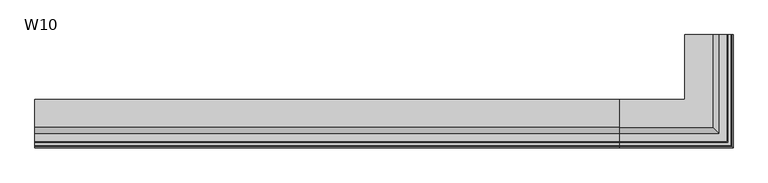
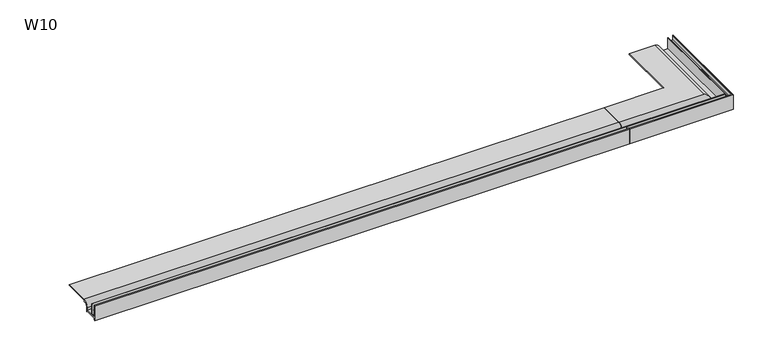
"""IFC4 building model written with IfcOpenShell, lengths in millimetres: proxy geometry, W10 Profil okapowy prosty : W10."""

from ifc_helpers import new_model, si_unit, point, frame, frame_2d, origin, place, context, project, spatial, polyline, circle_curve, ellipse_curve, trimmed, segment, composite_curve, outline, extrude, source, transform, mapped, element, save
from ifc_brep_helpers import plane_surface, cylinder_surface, revolved_surface, advanced_brep


def w10_300571e7(model_context):
    return source(origin(), model_context, "Body", "SolidModel", [
        advanced_brep(
        [(1315.0, -44.56, -27.6922578), (1315.0, -44.56, 9.4246509), (1315.0, -43.1073683, 11.223413), (1315.0, -42.8536246, 10.034885), (1315.0, -43.3599998, 9.4089901), (1315.0, -43.3599998, -1.26), (1315.0, -40.9599998, -1.26), (1315.0, -40.9599998, -2.62), (1315.0, -43.3599998, -2.62), (1315.0, -43.3599998, -15.6), (1315.0, -40.7999998, -15.6), (1315.0, -40.7999998, -16.8), (1315.0, -43.3599998, -16.8), (1315.0, -43.3599998, -20.0), (1315.0, -32.3999998, -20.0), (1315.0, -32.3999998, 8.6705848), (1315.0, -31.1999998, 8.6705848), (1315.0, -31.1999998, -20.0), (1315.0, -12.3999998, -20.0), (1315.0, -12.3999998, -13.6), (1315.0, 1.2000002, 0.0), (1315.0, 63.8400002, 0.0), (1315.0, 63.8400002, -1.92), (1315.0, -0.1599998, -1.92), (1315.0, -0.1599998, -5.76), (1315.0, -1.1999998, -5.76), (1315.0, -1.1999998, -2.1733833), (1315.0, -10.4799998, -13.6), (1315.0, -10.4799998, -24.3057388), (1315.0, -11.6799998, -25.0468739), (1315.0, -11.6799998, -21.92), (1315.0, -43.3599999, -21.92), (1315.0, -43.3599999, -26.4922579), (1569.56, 210.0, -27.6922578), (1568.3599999, 210.0, -26.4922579), (1568.3599999, 210.0, -21.92), (1536.6799998, 210.0, -21.92), (1536.6799998, 210.0, -25.0468739), (1535.4799998, 210.0, -24.3057388), (1535.4799998, 210.0, -13.6), (1526.1999998, 210.0, -2.1733833), (1526.1999998, 210.0, -5.76), (1525.1599998, 210.0, -5.76), (1525.1599998, 210.0, -1.92), (1461.1599998, 210.0, -1.92), (1461.1599998, 210.0, 0.0), (1523.7999998, 210.0, 0.0), (1537.3999998, 210.0, -13.6), (1537.3999998, 210.0, -20.0), (1556.1999998, 210.0, -20.0), (1556.1999998, 210.0, 8.6705848), (1557.3999998, 210.0, 8.6705848), (1557.3999998, 210.0, -20.0), (1568.3599998, 210.0, -20.0), (1568.3599998, 210.0, -16.8), (1565.7999998, 210.0, -16.8), (1565.7999998, 210.0, -15.6), (1568.3599998, 210.0, -15.6), (1568.3599998, 210.0, -2.62), (1565.9599998, 210.0, -2.62), (1565.9599998, 210.0, -1.26), (1568.3599998, 210.0, -1.26), (1568.3599998, 210.0, 9.4089901), (1567.8536246, 210.0, 10.034885), (1568.1073683, 210.0, 11.223413), (1569.56, 210.0, 9.4246509), (1568.3599999, -43.3599999, -26.4922579), (1569.56, -44.56, -27.6922578), (1461.1599998, 63.8400002, 0.0), (1461.1599998, 63.8400002, -1.92), (1525.1599998, -0.1599998, -1.92), (1526.1999998, -1.1999998, -2.1733833), (1535.4799998, -10.4799998, -13.6), (1535.4799998, -10.4799998, -24.3057388), (1536.6799998, -11.6799998, -25.0468739), (1536.6799998, -11.6799998, -21.92), (1568.3599999, -43.3599999, -21.92), (1569.56, -44.56, 9.4246509), (1526.1999998, -1.1999998, -5.76), (1525.1599998, -0.1599998, -5.76), (1523.7999998, 1.2000002, 0.0), (1537.3999998, -12.3999998, -13.6), (1537.3999998, -12.3999998, -20.0), (1556.1999998, -31.1999998, -20.0), (1556.1999998, -31.1999998, 8.6705848), (1557.3999998, -32.3999998, 8.6705848), (1557.3999998, -32.3999998, -20.0), (1568.3599998, -43.3599998, -20.0), (1568.3599998, -43.3599998, -16.8), (1565.7999998, -40.7999998, -16.8), (1565.7999998, -40.7999998, -15.6), (1568.3599998, -43.3599998, -15.6), (1568.3599998, -43.3599998, -2.62), (1565.9599998, -40.9599998, -2.62), (1565.9599998, -40.9599998, -1.26), (1568.3599998, -43.3599998, -1.26), (1568.3599998, -43.3599998, 9.4089901), (1567.8536246, -42.8536246, 10.034885), (1568.1073683, -43.1073683, 11.223413)],
        [
            (0, 1),
            (1, 2, circle_curve(frame((1315.0, -42.7200002, 9.4246509), z_axis=(-1.0, 0.0, 0.0), x_axis=(0.0, 1.0, 0.0)), 1.8399998)),
            (2, 3),
            (3, 4, circle_curve(frame((1315.0, -42.7199998, 9.4089901), z_axis=(1.0, 0.0, 0.0), x_axis=(0.0, 1.0, 0.0)), 0.64)),
            (4, 5),
            (5, 6),
            (6, 7),
            (7, 8),
            (8, 9),
            (9, 10),
            (10, 11),
            (11, 12),
            (12, 13),
            (13, 14),
            (14, 15),
            (15, 16),
            (16, 17),
            (17, 18),
            (18, 19),
            (19, 20, circle_curve(frame((1315.0, 1.2000002, -13.6), z_axis=(-1.0, 0.0, 0.0), x_axis=(0.0, 1.0, 0.0)), 13.6)),
            (20, 21),
            (21, 22),
            (22, 23),
            (23, 24),
            (24, 25),
            (25, 26),
            (26, 27, circle_curve(frame((1315.0, 1.1910212, -13.5968574), z_axis=(1.0, 0.0, 0.0), x_axis=(0.0, 1.0, 0.0)), 11.6710215)),
            (27, 28),
            (28, 29),
            (29, 30),
            (30, 31),
            (31, 32),
            (32, 0),
            (33, 34),
            (34, 35),
            (35, 36),
            (36, 37),
            (37, 38),
            (38, 39),
            (39, 40, circle_curve(frame((1523.8089788, 210.0, -13.5968574), z_axis=(0.0, -1.0, 0.0), x_axis=(-1.0, 0.0, 0.0)), 11.6710215)),
            (40, 41),
            (41, 42),
            (42, 43),
            (43, 44),
            (44, 45),
            (45, 46),
            (46, 47, circle_curve(frame((1523.7999998, 210.0, -13.6), z_axis=(0.0, 1.0, 0.0), x_axis=(-1.0, 0.0, 0.0)), 13.6)),
            (47, 48),
            (48, 49),
            (49, 50),
            (50, 51),
            (51, 52),
            (52, 53),
            (53, 54),
            (54, 55),
            (55, 56),
            (56, 57),
            (57, 58),
            (58, 59),
            (59, 60),
            (60, 61),
            (61, 62),
            (62, 63, circle_curve(frame((1567.7199998, 210.0, 9.4089901), z_axis=(0.0, -1.0, 0.0), x_axis=(-1.0, 0.0, 0.0)), 0.64)),
            (63, 64),
            (64, 65, circle_curve(frame((1567.7200002, 210.0, 9.4246509), z_axis=(0.0, 1.0, 0.0), x_axis=(-1.0, 0.0, 0.0)), 1.8399998)),
            (65, 33),
            (32, 66),
            (66, 67),
            (67, 0),
            (21, 68),
            (68, 69),
            (69, 22),
            (69, 44),
            (43, 70),
            (70, 23),
            (26, 71),
            (71, 72, ellipse_curve(frame((1523.8089788, 1.1910212, -13.5968574), z_axis=(0.7071067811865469, 0.707106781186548, 0.0), x_axis=(0.7071067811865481, -0.7071067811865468, 0.0)), 16.5053168, 11.6710215)),
            (72, 27),
            (72, 73),
            (73, 28),
            (73, 74),
            (74, 29),
            (74, 75),
            (75, 30),
            (75, 36),
            (35, 76),
            (76, 31),
            (76, 66),
            (67, 77),
            (77, 1),
            (66, 34),
            (33, 67),
            (68, 45),
            (71, 40),
            (39, 72),
            (38, 73),
            (37, 74),
            (65, 77),
            (25, 78),
            (78, 71),
            (24, 79),
            (79, 42),
            (41, 78),
            (70, 79),
            (20, 80),
            (80, 46),
            (19, 81),
            (81, 80, ellipse_curve(frame((1523.7999998, 1.2000002, -13.6), z_axis=(-0.7071067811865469, -0.707106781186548, 0.0), x_axis=(-0.7071067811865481, 0.7071067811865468, 0.0)), 19.2333044, 13.6)),
            (18, 82),
            (82, 81),
            (17, 83),
            (83, 49),
            (48, 82),
            (16, 84),
            (84, 83),
            (15, 85),
            (85, 51),
            (50, 84),
            (14, 86),
            (86, 85),
            (13, 87),
            (87, 53),
            (52, 86),
            (12, 88),
            (88, 87),
            (11, 89),
            (89, 55),
            (54, 88),
            (10, 90),
            (90, 89),
            (9, 91),
            (91, 57),
            (56, 90),
            (8, 92),
            (92, 91),
            (7, 93),
            (93, 59),
            (58, 92),
            (6, 94),
            (94, 93),
            (5, 95),
            (95, 61),
            (60, 94),
            (4, 96),
            (96, 95),
            (3, 97),
            (97, 96, ellipse_curve(frame((1567.7199998, -42.7199998, 9.4089901), z_axis=(0.7071067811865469, 0.707106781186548, 0.0), x_axis=(0.7071067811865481, -0.7071067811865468, 0.0)), 0.9050966, 0.64)),
            (2, 98),
            (98, 97),
            (77, 98, ellipse_curve(frame((1567.7200002, -42.7200002, 9.4246509), z_axis=(-0.7071067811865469, -0.707106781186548, 0.0), x_axis=(-0.7071067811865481, 0.7071067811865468, 0.0)), 2.6021527, 1.8399998)),
            (81, 47),
            (96, 62),
            (97, 63),
            (98, 64),
        ],
        [
            plane_surface(frame((1315.0, 0.0, 1.5241588), z_axis=(-1.0, 0.0, 0.0), x_axis=(0.0, 0.0, 1.0))),
            plane_surface(frame((1525.0, 210.0, 1.5241588), z_axis=(0.0, 1.0, 0.0), x_axis=(0.0, 0.0, 1.0))),
            plane_surface(frame((1315.0, -44.56, -27.6922578), z_axis=(0.0, 0.7071067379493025, -0.70710682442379), x_axis=(1.0, 0.0, 0.0))),
            plane_surface(frame((1315.0, 63.8400002, -1.92), z_axis=(0.0, 1.0, 0.0), x_axis=(1.0, 0.0, 0.0))),
            plane_surface(frame((1315.0, -0.1599998, -1.92), z_axis=(0.0, 0.0, -1.0), x_axis=(1.0, 0.0, 0.0))),
            revolved_surface(polyline([(1535.4800002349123, 12.8620427, -13.5968574), (1315.0, 12.8620427, -13.5968574)]), (1315.0, 1.1910212, -13.5968574), (1.0, 0.0, 0.0)),
            plane_surface(frame((1315.0, -10.4799998, -24.3057388), z_axis=(0.0, 1.0, 0.0), x_axis=(1.0, 0.0, 0.0))),
            plane_surface(frame((1315.0, -11.6799998, -25.0468739), z_axis=(0.0, 0.5254716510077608, -0.8508111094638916), x_axis=(1.0, 0.0, 0.0))),
            plane_surface(frame((1315.0, -11.6799998, -21.92), z_axis=(0.0, -1.0, 0.0), x_axis=(1.0, 0.0, 0.0))),
            plane_surface(frame((1315.0, -43.3599999, -21.92), z_axis=(0.0, 0.0, -1.0), x_axis=(1.0, 0.0, 0.0))),
            plane_surface(frame((1315.0, -43.3599999, -26.4922579), z_axis=(0.0, 1.0, 0.0), x_axis=(1.0, 0.0, 0.0))),
            plane_surface(frame((1315.0, -44.56, 9.4246509), z_axis=(0.0, -1.0, 0.0), x_axis=(1.0, 0.0, 0.0))),
            plane_surface(frame((1569.56, -44.56, -27.6922578), z_axis=(-0.7071067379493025, 0.0, -0.70710682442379), x_axis=(0.0, 1.0, 0.0))),
            plane_surface(frame((1461.1599998, 63.8400002, -1.92), z_axis=(-1.0, 0.0, 0.0), x_axis=(0.0, 1.0, 0.0))),
            revolved_surface(polyline([(1512.1379573, 210.0, -13.5968574), (1512.1379573, -10.480000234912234, -13.5968574)]), (1523.8089788, 0.0, -13.5968574), (0.0, 1.0, 0.0)),
            plane_surface(frame((1535.4799998, -10.4799998, -24.3057388), z_axis=(-1.0, 0.0, 0.0), x_axis=(0.0, 1.0, 0.0))),
            plane_surface(frame((1536.6799998, -11.6799998, -25.0468739), z_axis=(-0.5254716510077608, 0.0, -0.8508111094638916), x_axis=(0.0, 1.0, 0.0))),
            plane_surface(frame((1536.6799998, -11.6799998, -21.92), z_axis=(1.0, 0.0, 0.0), x_axis=(0.0, 1.0, 0.0))),
            plane_surface(frame((1568.3599999, -43.3599999, -26.4922579), z_axis=(-1.0, 0.0, 0.0), x_axis=(0.0, 1.0, 0.0))),
            plane_surface(frame((1569.56, -44.56, 9.4246509), z_axis=(1.0, 0.0, 0.0), x_axis=(0.0, 1.0, 0.0))),
            plane_surface(frame((1315.0, -1.1999998, -2.1733833), z_axis=(0.0, -1.0, 0.0), x_axis=(1.0, 0.0, 0.0))),
            plane_surface(frame((1315.0, -1.1999998, -5.76), z_axis=(0.0, 0.0, -1.0), x_axis=(1.0, 0.0, 0.0))),
            plane_surface(frame((1315.0, -0.1599998, -5.76), z_axis=(0.0, 1.0, 0.0), x_axis=(1.0, 0.0, 0.0))),
            plane_surface(frame((1315.0, 63.8400002, 0.0), z_axis=(0.0, 0.0, 1.0), x_axis=(1.0, 0.0, 0.0))),
            cylinder_surface(frame((1315.0, 1.2000002, -13.6), z_axis=(-1.0, 0.0, 0.0), x_axis=(0.0, 1.0, 0.0)), 13.6),
            plane_surface(frame((1315.0, -12.3999998, -13.6), z_axis=(0.0, -1.0, 0.0), x_axis=(1.0, 0.0, 0.0))),
            plane_surface(frame((1315.0, -12.3999998, -20.0), z_axis=(0.0, 0.0, 1.0), x_axis=(1.0, 0.0, 0.0))),
            plane_surface(frame((1315.0, -31.1999998, -20.0), z_axis=(0.0, 1.0, 0.0), x_axis=(1.0, 0.0, 0.0))),
            plane_surface(frame((1315.0, -31.1999998, 8.6705848), z_axis=(0.0, 0.0, 1.0), x_axis=(1.0, 0.0, 0.0))),
            plane_surface(frame((1315.0, -32.3999998, 8.6705848), z_axis=(0.0, -1.0, 0.0), x_axis=(1.0, 0.0, 0.0))),
            plane_surface(frame((1315.0, -32.3999998, -20.0), z_axis=(0.0, 0.0, 1.0), x_axis=(1.0, 0.0, 0.0))),
            plane_surface(frame((1315.0, -43.3599998, -20.0), z_axis=(0.0, 1.0, 0.0), x_axis=(1.0, 0.0, 0.0))),
            plane_surface(frame((1315.0, -43.3599998, -16.8), z_axis=(0.0, 0.0, -1.0), x_axis=(1.0, 0.0, 0.0))),
            plane_surface(frame((1315.0, -40.7999998, -16.8), z_axis=(0.0, 1.0, 0.0), x_axis=(1.0, 0.0, 0.0))),
            plane_surface(frame((1315.0, -40.7999998, -15.6), z_axis=(0.0, 0.0, 1.0), x_axis=(1.0, 0.0, 0.0))),
            plane_surface(frame((1315.0, -43.3599998, -15.6), z_axis=(0.0, 1.0, 0.0), x_axis=(1.0, 0.0, 0.0))),
            plane_surface(frame((1315.0, -43.3599998, -2.62), z_axis=(0.0, 0.0, -1.0), x_axis=(1.0, 0.0, 0.0))),
            plane_surface(frame((1315.0, -40.9599998, -2.62), z_axis=(0.0, 1.0, 0.0), x_axis=(1.0, 0.0, 0.0))),
            plane_surface(frame((1315.0, -40.9599998, -1.26), z_axis=(0.0, 0.0, 1.0), x_axis=(1.0, 0.0, 0.0))),
            plane_surface(frame((1315.0, -43.3599998, -1.26), z_axis=(0.0, 1.0, 0.0), x_axis=(1.0, 0.0, 0.0))),
            revolved_surface(polyline([(1568.3599998, -42.079999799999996, 9.4089901), (1315.0, -42.079999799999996, 9.4089901)]), (1315.0, -42.7199998, 9.4089901), (1.0, 0.0, 0.0)),
            plane_surface(frame((1315.0, -42.8536246, 10.034885), z_axis=(0.0, 0.9779607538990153, 0.20878880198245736), x_axis=(1.0, 0.0, 0.0))),
            cylinder_surface(frame((1315.0, -42.7200002, 9.4246509), z_axis=(-1.0, 0.0, 0.0), x_axis=(0.0, 1.0, 0.0)), 1.8399998),
            plane_surface(frame((1526.1999998, -1.1999998, -2.1733833), z_axis=(1.0, 0.0, 0.0), x_axis=(0.0, 1.0, 0.0))),
            plane_surface(frame((1525.1599998, -0.1599998, -5.76), z_axis=(-1.0, 0.0, 0.0), x_axis=(0.0, 1.0, 0.0))),
            cylinder_surface(frame((1523.7999998, 0.0, -13.6), z_axis=(0.0, -1.0, 0.0), x_axis=(-1.0, 0.0, 0.0)), 13.6),
            plane_surface(frame((1537.3999998, -12.3999998, -13.6), z_axis=(1.0, 0.0, 0.0), x_axis=(0.0, 1.0, 0.0))),
            plane_surface(frame((1556.1999998, -31.1999998, -20.0), z_axis=(-1.0, 0.0, 0.0), x_axis=(0.0, 1.0, 0.0))),
            plane_surface(frame((1557.3999998, -32.3999998, 8.6705848), z_axis=(1.0, 0.0, 0.0), x_axis=(0.0, 1.0, 0.0))),
            plane_surface(frame((1568.3599998, -43.3599998, -20.0), z_axis=(-1.0, 0.0, 0.0), x_axis=(0.0, 1.0, 0.0))),
            plane_surface(frame((1565.7999998, -40.7999998, -16.8), z_axis=(-1.0, 0.0, 0.0), x_axis=(0.0, 1.0, 0.0))),
            plane_surface(frame((1568.3599998, -43.3599998, -15.6), z_axis=(-1.0, 0.0, 0.0), x_axis=(0.0, 1.0, 0.0))),
            plane_surface(frame((1565.9599998, -40.9599998, -2.62), z_axis=(-1.0, 0.0, 0.0), x_axis=(0.0, 1.0, 0.0))),
            plane_surface(frame((1568.3599998, -43.3599998, -1.26), z_axis=(-1.0, 0.0, 0.0), x_axis=(0.0, 1.0, 0.0))),
            revolved_surface(polyline([(1567.0799998, 210.0, 9.4089901), (1567.0799998, -43.3599998, 9.4089901)]), (1567.7199998, 0.0, 9.4089901), (0.0, 1.0, 0.0)),
            plane_surface(frame((1567.8536246, -42.8536246, 10.034885), z_axis=(-0.9779607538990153, 0.0, 0.20878880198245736), x_axis=(0.0, 1.0, 0.0))),
            cylinder_surface(frame((1567.7200002, 0.0, 9.4246509), z_axis=(0.0, -1.0, 0.0), x_axis=(-1.0, 0.0, 0.0)), 1.8399998),
        ],
        [
            (0, [[1, 2, 3, 4, 5, 6, 7, 8, 9, 10, 11, 12, 13, 14, 15, 16, 17, 18, 19, 20, 21, 22, 23, 24, 25, 26, 27, 28, 29, 30, 31, 32, 33]]),
            (1, [[34, 35, 36, 37, 38, 39, 40, 41, 42, 43, 44, 45, 46, 47, 48, 49, 50, 51, 52, 53, 54, 55, 56, 57, 58, 59, 60, 61, 62, 63, 64, 65, 66]]),
            (2, [[67, 68, 69, -33]]),
            (3, [[70, 71, 72, -22]]),
            (4, [[-72, 73, -44, 74, 75, -23]]),
            (5, [[76, 77, 78, -27]]),
            (6, [[-78, 79, 80, -28]]),
            (7, [[-80, 81, 82, -29]]),
            (8, [[-82, 83, 84, -30]]),
            (9, [[-84, 85, -36, 86, 87, -31]]),
            (10, [[-87, 88, -67, -32]]),
            (11, [[-69, 89, 90, -1]]),
            (12, [[91, -34, 92, -68]]),
            (13, [[93, -45, -73, -71]]),
            (14, [[94, -40, 95, -77]]),
            (15, [[-95, -39, 96, -79]]),
            (16, [[-96, -38, 97, -81]]),
            (17, [[-97, -37, -85, -83]]),
            (18, [[-86, -35, -91, -88]]),
            (19, [[-92, -66, 98, -89]]),
            (20, [[99, 100, -76, -26]]),
            (21, [[101, 102, -42, 103, -99, -25]]),
            (22, [[-75, 104, -101, -24]]),
            (23, [[105, 106, -46, -93, -70, -21]]),
            (24, [[107, 108, -105, -20]]),
            (25, [[109, 110, -107, -19]]),
            (26, [[111, 112, -49, 113, -109, -18]]),
            (27, [[114, 115, -111, -17]]),
            (28, [[116, 117, -51, 118, -114, -16]]),
            (29, [[119, 120, -116, -15]]),
            (30, [[121, 122, -53, 123, -119, -14]]),
            (31, [[124, 125, -121, -13]]),
            (32, [[126, 127, -55, 128, -124, -12]]),
            (33, [[129, 130, -126, -11]]),
            (34, [[131, 132, -57, 133, -129, -10]]),
            (35, [[134, 135, -131, -9]]),
            (36, [[136, 137, -59, 138, -134, -8]]),
            (37, [[139, 140, -136, -7]]),
            (38, [[141, 142, -61, 143, -139, -6]]),
            (39, [[144, 145, -141, -5]]),
            (40, [[146, 147, -144, -4]]),
            (41, [[148, 149, -146, -3]]),
            (42, [[-90, 150, -148, -2]]),
            (43, [[-103, -41, -94, -100]]),
            (44, [[-74, -43, -102, -104]]),
            (45, [[151, -47, -106, -108]]),
            (46, [[-113, -48, -151, -110]]),
            (47, [[-118, -50, -112, -115]]),
            (48, [[-123, -52, -117, -120]]),
            (49, [[-128, -54, -122, -125]]),
            (50, [[-133, -56, -127, -130]]),
            (51, [[-138, -58, -132, -135]]),
            (52, [[-143, -60, -137, -140]]),
            (53, [[152, -62, -142, -145]]),
            (54, [[153, -63, -152, -147]]),
            (55, [[154, -64, -153, -149]]),
            (56, [[-98, -65, -154, -150]]),
        ],
    ),
        extrude(outline(composite_curve([segment(polyline([(-44.56, -27.6922578), (-44.56, 9.4246509)]), True, "CONTINUOUS"), segment(trimmed(circle_curve(frame_2d((-42.7200002, 9.4246509)), 1.8399998), [point((-44.56, 9.4246509))], [point((-43.1073683, 11.223413))], False, "CARTESIAN"), True, "CONTINUOUS"), segment(polyline([(-43.1073683, 11.223413), (-42.8536246, 10.034885)]), True, "CONTINUOUS"), segment(trimmed(circle_curve(frame_2d((-42.7199998, 9.4089901)), 0.64), [point((-42.8536246, 10.034885))], [point((-43.3599998, 9.4089901))], True, "CARTESIAN"), True, "CONTINUOUS"), segment(polyline([(-43.3599998, 9.4089901), (-43.3599998, -1.26), (-40.9599998, -1.26), (-40.9599998, -2.62), (-43.3599998, -2.62), (-43.3599998, -15.6), (-40.7999998, -15.6), (-40.7999998, -16.8), (-43.3599998, -16.8), (-43.3599998, -20.0), (-32.3999998, -20.0), (-32.3999998, 8.6705848), (-31.1999998, 8.6705848), (-31.1999998, -20.0), (-12.3999998, -20.0), (-12.3999998, -13.6)]), True, "CONTINUOUS"), segment(trimmed(circle_curve(frame_2d((1.2000002, -13.6)), 13.6), [point((-12.3999998, -13.6))], [point((1.2000002, 0.0))], False, "CARTESIAN"), True, "CONTINUOUS"), segment(polyline([(1.2000002, 0.0), (63.8400002, 0.0), (63.8400002, -1.92), (-0.1599998, -1.92), (-0.1599998, -5.76), (-1.1999998, -5.76), (-1.1999998, -2.1733833)]), True, "CONTINUOUS"), segment(trimmed(circle_curve(frame_2d((1.1910212, -13.5968574)), 11.6710215), [point((-1.1999998, -2.1733833))], [point((-10.4799998, -13.6))], True, "CARTESIAN"), True, "CONTINUOUS"), segment(polyline([(-10.4799998, -13.6), (-10.4799998, -24.3057388), (-11.6799998, -25.0468739), (-11.6799998, -21.92), (-43.3599999, -21.92), (-43.3599999, -26.4922579), (-44.56, -27.6922578)]), True, "CONTINUOUS")], self_intersect=False)), frame((0.0, 0.0, 0.0), z_axis=(1.0, 0.0, 0.0), x_axis=(0.0, 1.0, 0.0)), (0.0, 0.0, 1.0), 1315.0),
    ])


if __name__ == "__main__":
    model = new_model("IFC4")
    model_context = context("Model", 3, world=origin())
    ifc_project = project(units=[si_unit("LENGTHUNIT", "METRE", prefix="MILLI")], contexts=[model_context])
    site = spatial("IfcSite", under=ifc_project)
    building = spatial("IfcBuilding", under=site)
    placement = place(None, origin())
    w10_shape = w10_300571e7(model_context)
    element("IfcBuildingElementProxy", 1, Name="W10 Profil okapowy prosty : W10", ObjectType="W10 Profil okapowy prosty : W10", at=placement, inside=building, context=model_context, shape_type="MappedRepresentation", body=[
        mapped(w10_shape, transform((0.0, 0.0, 0.0), x_axis=(1.0, 0.0, 0.0), y_axis=(0.0, 1.0, 0.0), z_axis=(0.0, 0.0, 1.0))),
    ])
    save(model, "model.ifc")
